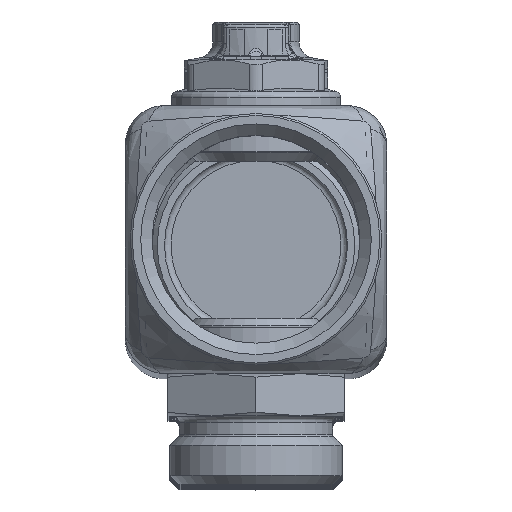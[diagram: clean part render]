
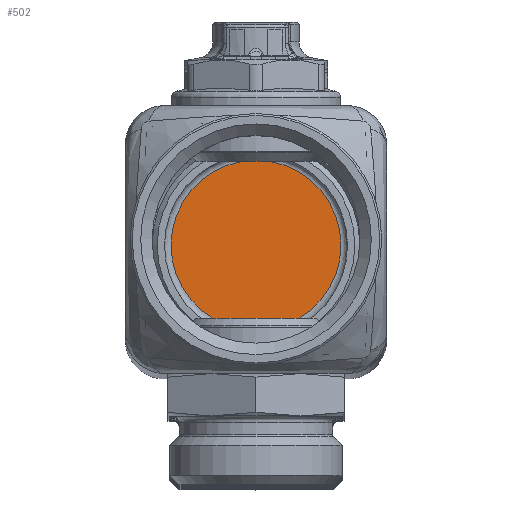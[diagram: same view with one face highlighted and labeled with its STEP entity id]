
A CAD part, top view. The second image highlights one B-rep face of the part: STEP entity #502.
In plain terms, the highlighted planar face has unit normal (0, 0, 1).
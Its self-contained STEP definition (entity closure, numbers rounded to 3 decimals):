
#502=ADVANCED_FACE('',(#6264),#6266,.T.);
#6264=FACE_BOUND('',#6265,.T.);
#6265=EDGE_LOOP('',(#15928));
#6266=PLANE('',#6267);
#6267=AXIS2_PLACEMENT_3D('',#6268,#6269,#6270);
#6268=CARTESIAN_POINT('',(0.,0.,-259.75));
#6269=DIRECTION('',(0.,0.,1.));
#6270=DIRECTION('',(1.,0.,0.));
#15928=ORIENTED_EDGE('',*,*,#19448,.T.);
#19448=EDGE_CURVE('',#22359,#22359,#22360,.T.);
#22359=VERTEX_POINT('',#29645);
#22360=CIRCLE('',#29646,13.);
#29645=CARTESIAN_POINT('',(13.,0.,-259.75));
#29646=AXIS2_PLACEMENT_3D('',#29647,#29648,#29649);
#29647=CARTESIAN_POINT('',(0.,0.,-259.75));
#29648=DIRECTION('',(0.,0.,1.));
#29649=DIRECTION('',(1.,0.,0.));
